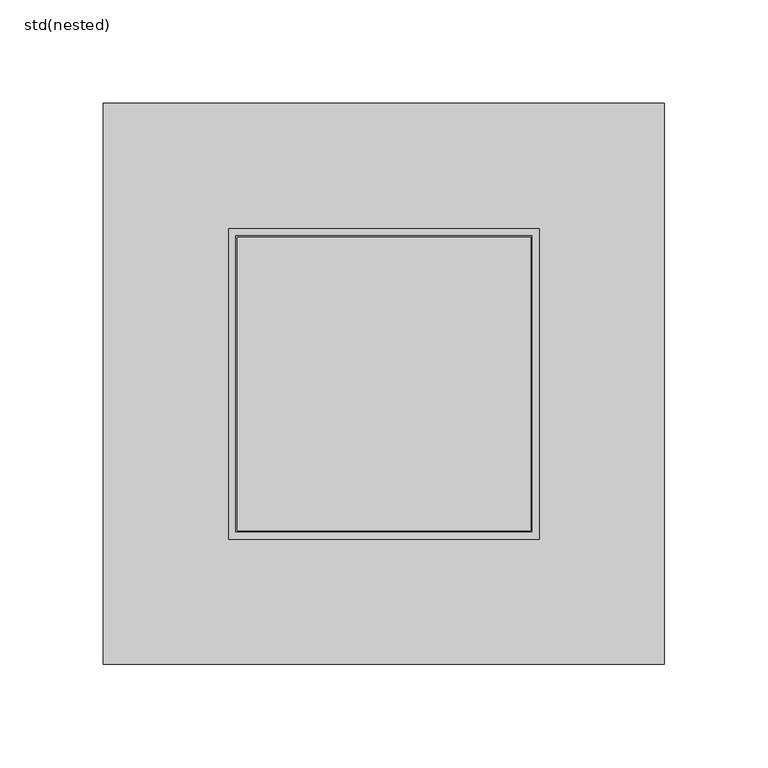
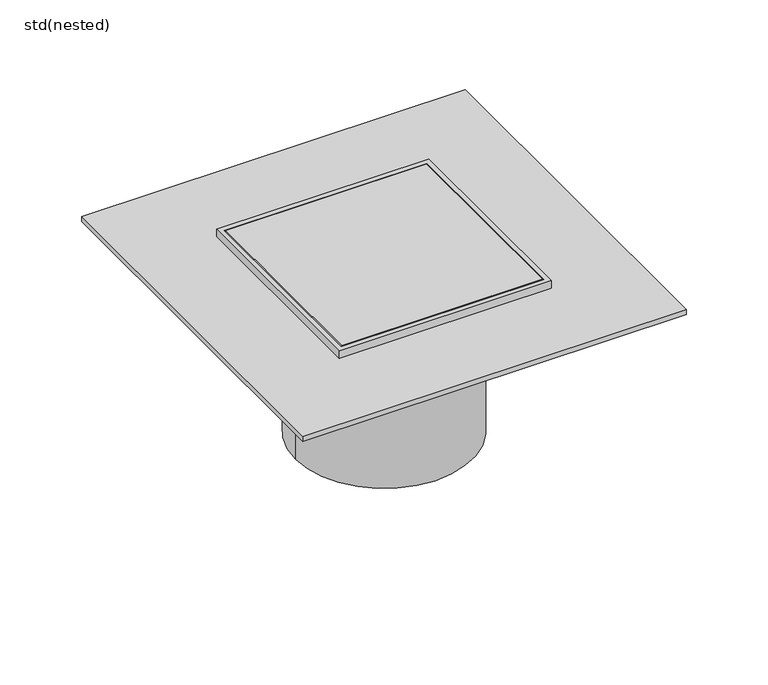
"""IFC4 building model written with IfcOpenShell, lengths in millimetres: sanitary terminal geometry, ZZZ_do not use_PF_ST_WPB_sanded flange floor gratings_CR 142_ACO : std(nested)."""

from ifc_helpers import new_model, si_unit, frame, origin, place, context, project, spatial, polyline, circle_curve, outline, extrude, source, transform, mapped, element, save
from ifc_brep_helpers import plane_surface, cylinder_surface, advanced_brep


def std_nested_aa14c2f5(model_context):
    return source(origin(), model_context, "Body", "SolidModel", [
        extrude(outline(polyline([(135.5, 135.5), (135.5, -135.5), (-135.5, -135.5), (-135.5, 135.5), (135.5, 135.5)])), frame((0.0, 0.0, -10.0), z_axis=(0.0, 0.0, 1.0), x_axis=(1.0, 0.0, 0.0)), (0.0, 0.0, 1.0), 4.0),
        advanced_brep(
        [(-62.5, 0.0, -131.0), (62.5, 0.0, -131.0), (62.5, 0.0, -65.0), (-62.5, 0.0, -65.0), (-62.5, 0.0, -30.0), (62.5, 0.0, -30.0), (75.0, 75.0, -10.0), (75.0, 75.0, 0.0), (75.0, -75.0, 0.0), (75.0, -75.0, -10.0), (73.5, 73.5, -30.0), (73.5, 73.5, -10.0), (73.5, -73.5, -10.0), (73.5, -73.5, -30.0), (-75.0, -75.0, 0.0), (-75.0, -75.0, -10.0), (-73.5, -73.5, -10.0), (-73.5, -73.5, -30.0), (-75.0, 75.0, 0.0), (-75.0, 75.0, -10.0), (-73.5, 73.5, -10.0), (-73.5, 73.5, -30.0), (71.5, 71.5, 0.0), (71.5, -71.5, 0.0), (-71.5, -71.5, 0.0), (-71.5, 71.5, 0.0), (71.5, 71.5, -28.0), (71.5, -71.5, -28.0), (-71.5, -71.5, -28.0), (-71.5, 71.5, -28.0), (71.0, -71.0, -28.0), (-71.0, -71.0, -28.0), (-71.0, 71.0, -28.0), (71.0, 71.0, -28.0), (-71.0, -71.0, 0.0), (71.0, -71.0, 0.0), (71.0, 71.0, 0.0), (-71.0, 71.0, 0.0)],
        [
            (0, 1, circle_curve(frame((0.0, 0.0, -131.0), z_axis=(0.0, 0.0, -1.0), x_axis=(1.0, 0.0, 0.0)), 62.5)),
            (1, 0, circle_curve(frame((0.0, 0.0, -131.0), z_axis=(0.0, 0.0, -1.0), x_axis=(1.0, 0.0, 0.0)), 62.5)),
            (1, 2),
            (2, 3, circle_curve(frame((0.0, 0.0, -65.0), z_axis=(0.0, 0.0, -1.0), x_axis=(1.0, 0.0, 0.0)), 62.5)),
            (3, 0),
            (3, 2, circle_curve(frame((0.0, 0.0, -65.0), z_axis=(0.0, 0.0, -1.0), x_axis=(1.0, 0.0, 0.0)), 62.5)),
            (4, 3),
            (2, 5),
            (5, 4, circle_curve(frame((0.0, 0.0, -30.0), z_axis=(0.0, 0.0, -1.0), x_axis=(1.0, 0.0, 0.0)), 62.5)),
            (4, 5, circle_curve(frame((0.0, 0.0, -30.0), z_axis=(0.0, 0.0, -1.0), x_axis=(1.0, 0.0, 0.0)), 62.5)),
            (6, 7),
            (7, 8),
            (8, 9),
            (9, 6),
            (10, 11),
            (11, 12),
            (12, 13),
            (13, 10),
            (8, 14),
            (14, 15),
            (15, 9),
            (12, 16),
            (16, 17),
            (17, 13),
            (14, 18),
            (18, 19),
            (19, 15),
            (16, 20),
            (20, 21),
            (21, 17),
            (7, 18),
            (22, 23),
            (23, 24),
            (24, 25),
            (25, 22),
            (6, 19),
            (11, 20),
            (10, 21),
            (22, 26),
            (26, 27),
            (27, 23),
            (27, 28),
            (28, 24),
            (28, 29),
            (29, 25),
            (26, 29),
            (30, 31),
            (31, 32),
            (32, 33),
            (33, 30),
            (34, 35),
            (35, 36),
            (36, 37),
            (37, 34),
            (34, 31),
            (30, 35),
            (33, 36),
            (32, 37),
        ],
        [
            plane_surface(frame((62.5, 0.0, -131.0), z_axis=(0.0, 0.0, -1.0), x_axis=(0.0, -1.0, 0.0))),
            cylinder_surface(frame((0.0, 0.0, -131.0), z_axis=(0.0, 0.0, 1.0), x_axis=(1.0, 0.0, 0.0)), 62.5),
            cylinder_surface(frame((0.0, 0.0, -65.0), z_axis=(0.0, 0.0, 1.0), x_axis=(1.0, 0.0, 0.0)), 62.5),
            plane_surface(frame((75.0, 75.0, 0.0), z_axis=(1.0, 0.0, 0.0), x_axis=(0.0, -1.0, 0.0))),
            plane_surface(frame((73.5, 73.5, -10.0), z_axis=(1.0, 0.0, 0.0), x_axis=(0.0, -1.0, 0.0))),
            plane_surface(frame((75.0, -75.0, 0.0), z_axis=(0.0, -1.0, 0.0), x_axis=(-1.0, 0.0, 0.0))),
            plane_surface(frame((73.5, -73.5, -10.0), z_axis=(0.0, -1.0, 0.0), x_axis=(-1.0, 0.0, 0.0))),
            plane_surface(frame((-75.0, -75.0, 0.0), z_axis=(-1.0, 0.0, 0.0), x_axis=(0.0, 1.0, 0.0))),
            plane_surface(frame((-73.5, -73.5, -10.0), z_axis=(-1.0, 0.0, 0.0), x_axis=(0.0, 1.0, 0.0))),
            plane_surface(frame((-71.5, 71.5, 0.0), z_axis=(0.0, 0.0, 1.0), x_axis=(1.0, 0.0, 0.0))),
            plane_surface(frame((-75.0, 75.0, 0.0), z_axis=(0.0, 1.0, 0.0), x_axis=(1.0, 0.0, 0.0))),
            plane_surface(frame((-75.0, 75.0, -10.0), z_axis=(0.0, 0.0, -1.0), x_axis=(1.0, 0.0, 0.0))),
            plane_surface(frame((-73.5, 73.5, -10.0), z_axis=(0.0, 1.0, 0.0), x_axis=(1.0, 0.0, 0.0))),
            plane_surface(frame((-73.5, 73.5, -30.0), z_axis=(0.0, 0.0, -1.0), x_axis=(1.0, 0.0, 0.0))),
            plane_surface(frame((71.5, 71.5, -28.0), z_axis=(-1.0, 0.0, 0.0), x_axis=(0.0, -1.0, 0.0))),
            plane_surface(frame((71.5, -71.5, -28.0), z_axis=(0.0, 1.0, 0.0), x_axis=(-1.0, 0.0, 0.0))),
            plane_surface(frame((-71.5, -71.5, -28.0), z_axis=(1.0, 0.0, 0.0), x_axis=(0.0, 1.0, 0.0))),
            plane_surface(frame((0.0, 0.0, -28.0), z_axis=(0.0, 0.0, 1.0), x_axis=(1.0, 0.0, 0.0))),
            plane_surface(frame((-71.5, 71.5, -28.0), z_axis=(0.0, -1.0, 0.0), x_axis=(1.0, 0.0, 0.0))),
            plane_surface(frame((71.0, -71.0, 0.0), z_axis=(0.0, 0.0, 1.0), x_axis=(1.0, 0.0, 0.0))),
            plane_surface(frame((-71.0, -71.0, 0.0), z_axis=(0.0, -1.0, 0.0), x_axis=(0.0, 0.0, -1.0))),
            plane_surface(frame((71.0, -71.0, 0.0), z_axis=(1.0, 0.0, 0.0), x_axis=(0.0, 0.0, -1.0))),
            plane_surface(frame((71.0, 71.0, 0.0), z_axis=(0.0, 1.0, 0.0), x_axis=(0.0, 0.0, -1.0))),
            plane_surface(frame((-71.0, 71.0, 0.0), z_axis=(-1.0, 0.0, 0.0), x_axis=(0.0, 0.0, -1.0))),
        ],
        [
            (0, [[1, 2]]),
            (1, [[-2, 3, 4, 5]]),
            (1, [[-1, -5, 6, -3]]),
            (2, [[7, -4, 8, 9]]),
            (2, [[-7, 10, -8, -6]]),
            (3, [[11, 12, 13, 14]]),
            (4, [[15, 16, 17, 18]]),
            (5, [[-13, 19, 20, 21]]),
            (6, [[-17, 22, 23, 24]]),
            (7, [[-20, 25, 26, 27]]),
            (8, [[-23, 28, 29, 30]]),
            (9, [[-12, 31, -25, -19], [32, 33, 34, 35]]),
            (10, [[-11, 36, -26, -31]]),
            (11, [[-14, -21, -27, -36], [-16, 37, -28, -22]]),
            (12, [[-15, 38, -29, -37]]),
            (13, [[-18, -24, -30, -38], [-9, -10]]),
            (14, [[39, 40, 41, -32]]),
            (15, [[-41, 42, 43, -33]]),
            (16, [[-43, 44, 45, -34]]),
            (17, [[-40, 46, -44, -42], [47, 48, 49, 50]]),
            (18, [[-39, -35, -45, -46]]),
            (19, [[51, 52, 53, 54]]),
            (20, [[-51, 55, -47, 56]]),
            (21, [[-52, -56, -50, 57]]),
            (22, [[-53, -57, -49, 58]]),
            (23, [[-54, -58, -48, -55]]),
        ],
    ),
    ])


if __name__ == "__main__":
    model = new_model("IFC4")
    model_context = context("Model", 3, world=origin())
    ifc_project = project(units=[si_unit("LENGTHUNIT", "METRE", prefix="MILLI")], contexts=[model_context])
    site = spatial("IfcSite", under=ifc_project)
    building = spatial("IfcBuilding", under=site)
    placement = place(None, origin())
    std_nested_shape = std_nested_aa14c2f5(model_context)
    element("IfcSanitaryTerminal", 1, ObjectType="ZZZ_do not use_PF_ST_WPB_sanded flange floor gratings_CR 142_ACO : std(nested)", at=placement, inside=building, context=model_context, shape_type="MappedRepresentation", body=[
        mapped(std_nested_shape, transform((0.0, 0.0, 0.0), x_axis=(1.0, 0.0, 0.0), y_axis=(0.0, 1.0, 0.0), z_axis=(0.0, 0.0, 1.0))),
    ])
    save(model, "model.ifc")
